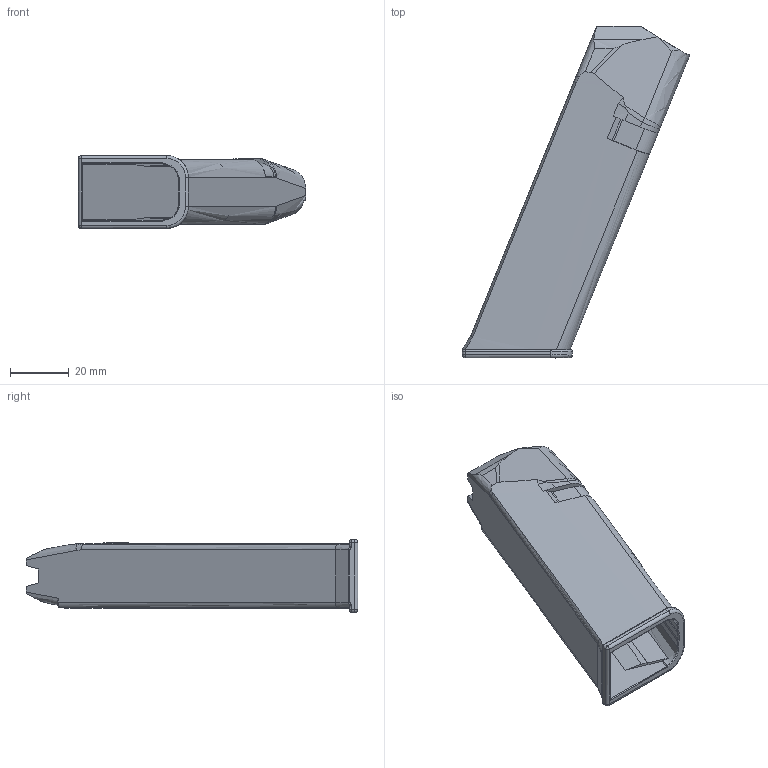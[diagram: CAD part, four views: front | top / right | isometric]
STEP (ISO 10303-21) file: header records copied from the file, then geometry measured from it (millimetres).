
FILE_DESCRIPTION(/* description */ (''),/* implementation_level */ '2;1');
FILE_NAME(/* name */ 'E:\MenMag v2.0\Menendez Magazine Pack v2.0\STEP\Mag Body - Menendez (17 Round).stp',/* time_stamp */ '2021-03-20T20:53:39-05:00',/* author */ ('johne'),/* organization */ (''),/* preprocessor_version */ 'ST-DEVELOPER v18',/* originating_system */ 'Autodesk Inventor 2020',/* authorisation */ '');
FILE_SCHEMA (('AUTOMOTIVE_DESIGN { 1 0 10303 214 3 1 1 }'));
Length unit declared in the file: inch
Products named in the file (1): Menendez Mag Body v2.11
Bounding box: 77.48 x 113.15 x 24.87 mm (x, y, z)
Volume: 20756.1 mm3; surface area: 23805.7 mm2
Topology: 1 solids, 9 shells, 220 faces, 561 edges, 352 vertices
Faces by surface type: plane 96, bspline 76, cylinder 46, cone 2
Entity records: 8415 total; most frequent: CARTESIAN_POINT 3367, ORIENTED_EDGE 1110, DIRECTION 885, EDGE_CURVE 555, VERTEX_POINT 352, AXIS2_PLACEMENT_3D 306, LINE 273, VECTOR 273
